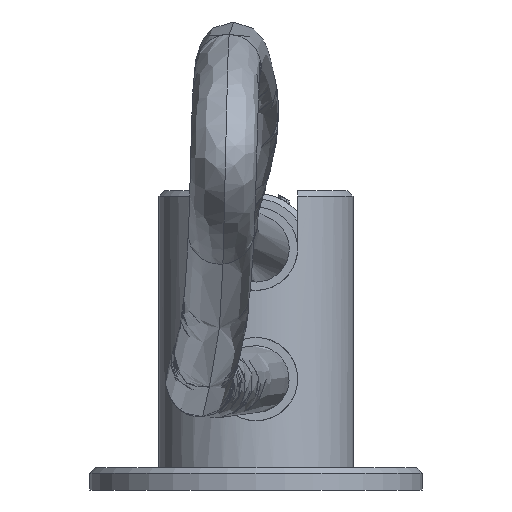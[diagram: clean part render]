
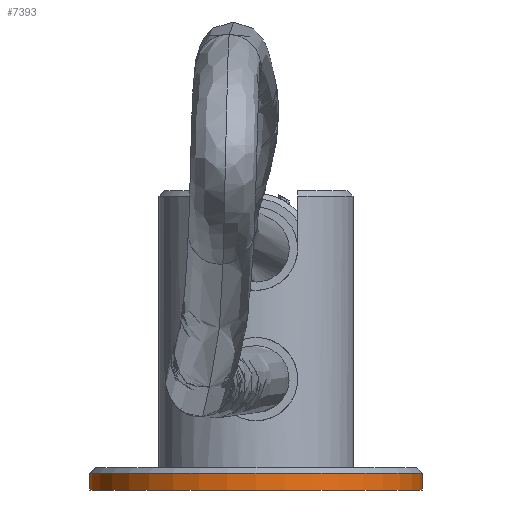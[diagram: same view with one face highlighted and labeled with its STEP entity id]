
A CAD part, front view. The second image highlights one B-rep face of the part: STEP entity #7393.
In plain terms, the highlighted cylindrical face has radius 30 mm (diameter 60 mm), a partial arc.
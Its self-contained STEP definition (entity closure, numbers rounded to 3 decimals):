
#606 = DIRECTION ( 'NONE',  ( 0., 0., -1. ) ) ;
#689 = EDGE_CURVE ( 'NONE', #9906, #4178, #5202, .T. ) ;
#1076 = DIRECTION ( 'NONE',  ( 0., 0., -1. ) ) ;
#1094 = CARTESIAN_POINT ( 'NONE',  ( 30., 0., 0. ) ) ;
#1281 = VECTOR ( 'NONE', #606, 1000. ) ;
#1289 = CIRCLE ( 'NONE', #11297, 30. ) ;
#1301 = ORIENTED_EDGE ( 'NONE', *, *, #5740, .T. ) ;
#1408 = ORIENTED_EDGE ( 'NONE', *, *, #2232, .F. ) ;
#1945 = DIRECTION ( 'NONE',  ( 0., 0., -1. ) ) ;
#2232 = EDGE_CURVE ( 'NONE', #9906, #2990, #8693, .T. ) ;
#2426 = VERTEX_POINT ( 'NONE', #2731 ) ;
#2731 = CARTESIAN_POINT ( 'NONE',  ( -30., 0., 0. ) ) ;
#2822 = CARTESIAN_POINT ( 'NONE',  ( -30., 0., 4. ) ) ;
#2990 = VERTEX_POINT ( 'NONE', #1094 ) ;
#3285 = EDGE_CURVE ( 'NONE', #2426, #2990, #1289, .T. ) ;
#3303 = VECTOR ( 'NONE', #1945, 1000. ) ;
#3673 = FACE_OUTER_BOUND ( 'NONE', #11124, .T. ) ;
#3786 = DIRECTION ( 'NONE',  ( 1., 0., 0. ) ) ;
#3848 = CARTESIAN_POINT ( 'NONE',  ( -30., 0., 3. ) ) ;
#4178 = VERTEX_POINT ( 'NONE', #3848 ) ;
#4431 = AXIS2_PLACEMENT_3D ( 'NONE', #9947, #11548, #9827 ) ;
#5202 = CIRCLE ( 'NONE', #8603, 30. ) ;
#5223 = ORIENTED_EDGE ( 'NONE', *, *, #3285, .T. ) ;
#5539 = CARTESIAN_POINT ( 'NONE',  ( 0., 0., 3. ) ) ;
#5740 = EDGE_CURVE ( 'NONE', #4178, #2426, #7411, .T. ) ;
#6059 = CARTESIAN_POINT ( 'NONE',  ( 30., 0., 3. ) ) ;
#6612 = DIRECTION ( 'NONE',  ( 0., 0., 1. ) ) ;
#7393 = ADVANCED_FACE ( 'NONE', ( #3673 ), #7917, .T. ) ;
#7411 = LINE ( 'NONE', #2822, #3303 ) ;
#7495 = CARTESIAN_POINT ( 'NONE',  ( 0., 0., 0. ) ) ;
#7917 = CYLINDRICAL_SURFACE ( 'NONE', #4431, 30. ) ;
#8232 = ORIENTED_EDGE ( 'NONE', *, *, #689, .T. ) ;
#8603 = AXIS2_PLACEMENT_3D ( 'NONE', #5539, #1076, #3786 ) ;
#8693 = LINE ( 'NONE', #9768, #1281 ) ;
#9467 = DIRECTION ( 'NONE',  ( 1., 0., 0. ) ) ;
#9768 = CARTESIAN_POINT ( 'NONE',  ( 30., 0., 4. ) ) ;
#9827 = DIRECTION ( 'NONE',  ( -1., 0., 0. ) ) ;
#9906 = VERTEX_POINT ( 'NONE', #6059 ) ;
#9947 = CARTESIAN_POINT ( 'NONE',  ( 0., 0., 4. ) ) ;
#11124 = EDGE_LOOP ( 'NONE', ( #1408, #8232, #1301, #5223 ) ) ;
#11297 = AXIS2_PLACEMENT_3D ( 'NONE', #7495, #6612, #9467 ) ;
#11548 = DIRECTION ( 'NONE',  ( 0., 0., -1. ) ) ;
